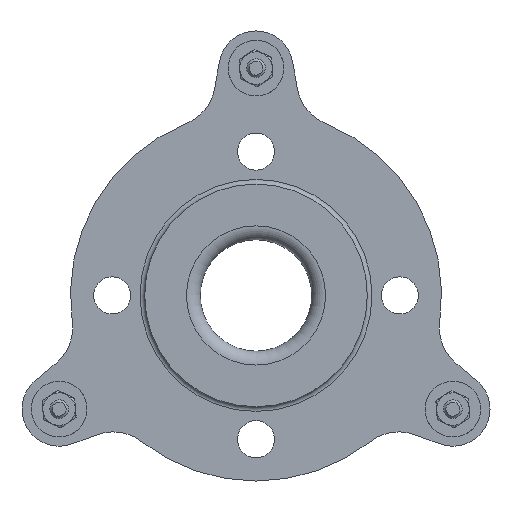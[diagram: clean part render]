
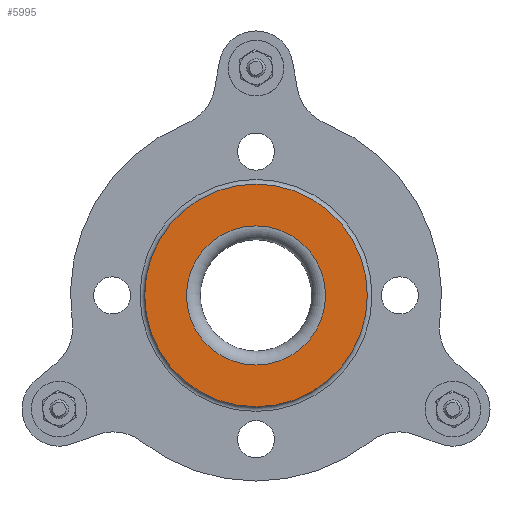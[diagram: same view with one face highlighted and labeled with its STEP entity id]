
A CAD part, front view. The second image highlights one B-rep face of the part: STEP entity #5995.
In plain terms, the highlighted planar face has unit normal (0, -1, 0).
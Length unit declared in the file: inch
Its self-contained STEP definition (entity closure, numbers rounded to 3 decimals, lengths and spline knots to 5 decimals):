
#665=PLANE('',#6686);
#1142=FACE_BOUND('',#2036,.T.);
#1436=FACE_OUTER_BOUND('',#2035,.T.);
#2035=EDGE_LOOP('',(#4812));
#2036=EDGE_LOOP('',(#4813));
#2488=CIRCLE('',#6610,1.5);
#2525=CIRCLE('',#6685,0.9375);
#2929=VERTEX_POINT('',#9821);
#2966=VERTEX_POINT('',#9933);
#3574=EDGE_CURVE('',#2929,#2929,#2488,.T.);
#3611=EDGE_CURVE('',#2966,#2966,#2525,.T.);
#4812=ORIENTED_EDGE('',*,*,#3574,.F.);
#4813=ORIENTED_EDGE('',*,*,#3611,.T.);
#5995=ADVANCED_FACE('',(#1436,#1142),#665,.T.);
#6610=AXIS2_PLACEMENT_3D('',#9822,#7904,#7905);
#6685=AXIS2_PLACEMENT_3D('',#9934,#8054,#8055);
#6686=AXIS2_PLACEMENT_3D('',#9935,#8056,#8057);
#7904=DIRECTION('center_axis',(0.,1.,0.));
#7905=DIRECTION('ref_axis',(1.,0.,0.));
#8054=DIRECTION('center_axis',(0.,1.,0.));
#8055=DIRECTION('ref_axis',(1.,0.,0.));
#8056=DIRECTION('center_axis',(0.,-1.,0.));
#8057=DIRECTION('ref_axis',(-1.,0.,0.));
#9821=CARTESIAN_POINT('',(0.57904,-0.5,-1.5));
#9822=CARTESIAN_POINT('Origin',(0.57904,-0.5,0.));
#9933=CARTESIAN_POINT('',(0.57904,-0.5,-0.9375));
#9934=CARTESIAN_POINT('Origin',(0.57904,-0.5,0.));
#9935=CARTESIAN_POINT('Origin',(0.57904,-0.5,-1.5));
